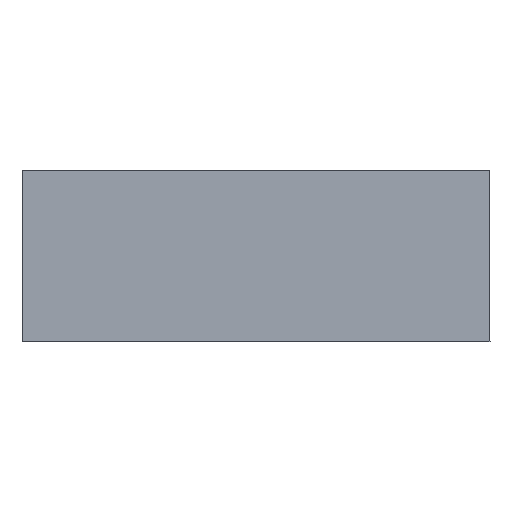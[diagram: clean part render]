
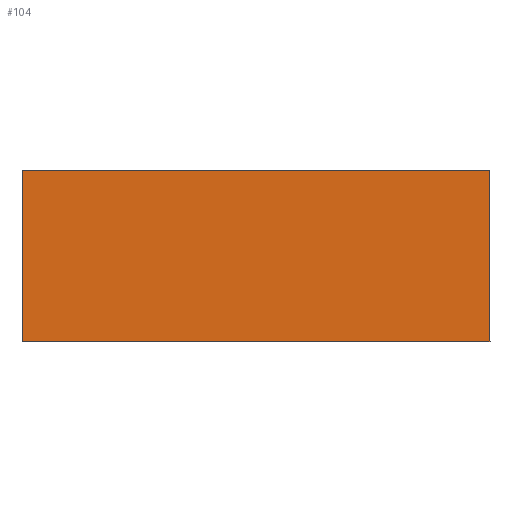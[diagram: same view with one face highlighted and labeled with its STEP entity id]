
A CAD part, top view. The second image highlights one B-rep face of the part: STEP entity #104.
In plain terms, the highlighted planar face has unit normal (0, 0, 1).
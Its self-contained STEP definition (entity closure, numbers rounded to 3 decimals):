
#104=ADVANCED_FACE('',(#144),#608,.T.);
#144=FACE_OUTER_BOUND('',#184,.T.);
#184=EDGE_LOOP('',(#243,#244,#245,#246));
#243=ORIENTED_EDGE('',*,*,#393,.T.);
#244=ORIENTED_EDGE('',*,*,#397,.T.);
#245=ORIENTED_EDGE('',*,*,#400,.T.);
#246=ORIENTED_EDGE('',*,*,#402,.T.);
#393=EDGE_CURVE('',#550,#549,#477,.T.);
#397=EDGE_CURVE('',#549,#552,#481,.T.);
#400=EDGE_CURVE('',#552,#554,#484,.T.);
#402=EDGE_CURVE('',#554,#550,#486,.T.);
#477=B_SPLINE_CURVE_WITH_KNOTS('',1,(#755,#756),.UNSPECIFIED.,.F.,.F.,(2,
2),(-4.,-3.),.UNSPECIFIED.);
#481=B_SPLINE_CURVE_WITH_KNOTS('',1,(#763,#764),.UNSPECIFIED.,.F.,.F.,(2,
2),(-3.,-2.),.UNSPECIFIED.);
#484=B_SPLINE_CURVE_WITH_KNOTS('',1,(#769,#770),.UNSPECIFIED.,.F.,.F.,(2,
2),(-2.,-1.),.UNSPECIFIED.);
#486=B_SPLINE_CURVE_WITH_KNOTS('',1,(#773,#774),.UNSPECIFIED.,.F.,.F.,(2,
2),(-1.,0.),.UNSPECIFIED.);
#549=VERTEX_POINT('',#745);
#550=VERTEX_POINT('',#746);
#552=VERTEX_POINT('',#748);
#554=VERTEX_POINT('',#750);
#608=PLANE('',#664);
#664=AXIS2_PLACEMENT_3D('',#742,#703,$);
#703=DIRECTION('',(0.,0.,1.));
#742=CARTESIAN_POINT('',(-867.411,1636.353,748.504));
#745=CARTESIAN_POINT('',(-1242.445,1498.841,748.504));
#746=CARTESIAN_POINT('',(-1242.445,398.741,748.504));
#748=CARTESIAN_POINT('',(-4242.719,1498.841,748.504));
#750=CARTESIAN_POINT('',(-4242.719,398.741,748.504));
#755=CARTESIAN_POINT('',(-1242.445,398.741,748.504));
#756=CARTESIAN_POINT('',(-1242.445,1498.841,748.504));
#763=CARTESIAN_POINT('',(-1242.445,1498.841,748.504));
#764=CARTESIAN_POINT('',(-4242.719,1498.841,748.504));
#769=CARTESIAN_POINT('',(-4242.719,1498.841,748.504));
#770=CARTESIAN_POINT('',(-4242.719,398.741,748.504));
#773=CARTESIAN_POINT('',(-4242.719,398.741,748.504));
#774=CARTESIAN_POINT('',(-1242.445,398.741,748.504));
